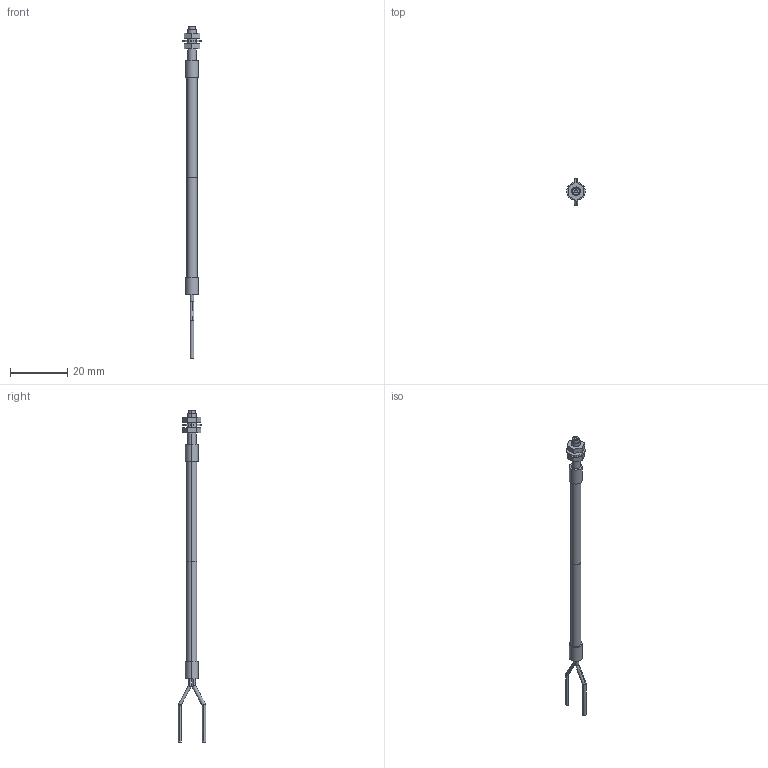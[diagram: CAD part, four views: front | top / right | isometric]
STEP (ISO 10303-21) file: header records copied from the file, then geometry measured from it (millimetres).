
FILE_DESCRIPTION (( 'STEP AP203' ), '1' );
FILE_NAME ('FD-G6X.STEP', '2005-09-04T09:36:01', ( '川島良英' ), ( ' ' ), 'SwSTEP 2.0', 'SolidWorks 2004251', '' );
FILE_SCHEMA (( 'CONFIG_CONTROL_DESIGN' ));
Length unit declared in the file: millimetre
Products named in the file (1): FD-G6X
Bounding box: 6.5 x 9.66 x 116.19 mm (x, y, z)
Volume: 1076.3 mm3; surface area: 1526.9 mm2
Topology: 5 solids, 5 shells, 63 faces, 138 edges, 92 vertices
Faces by surface type: cylinder 34, plane 29
Entity records: 1825 total; most frequent: CARTESIAN_POINT 342, DIRECTION 302, ORIENTED_EDGE 276, EDGE_CURVE 138, AXIS2_PLACEMENT_3D 116, VERTEX_POINT 92, EDGE_LOOP 76, LINE 70
